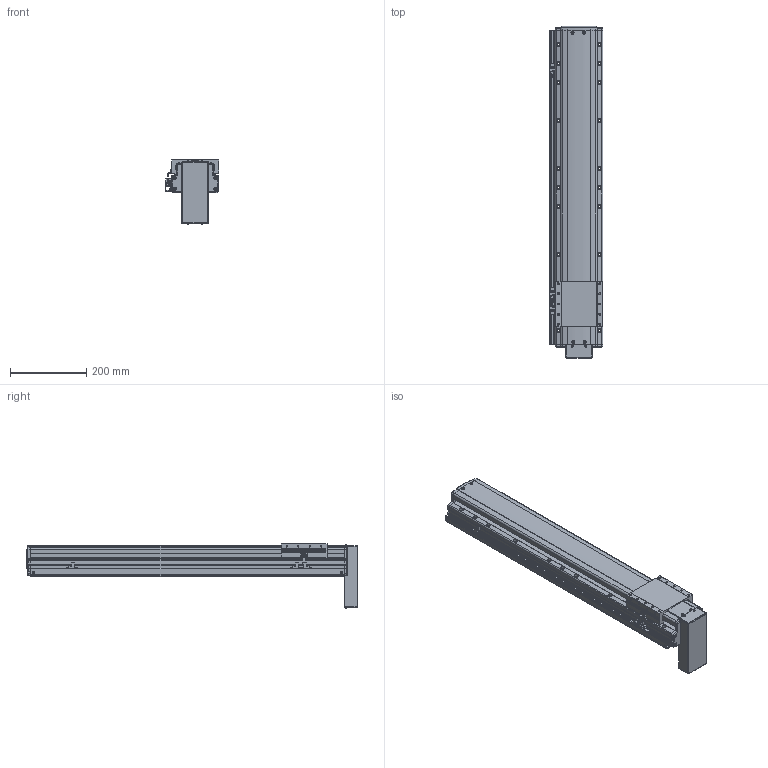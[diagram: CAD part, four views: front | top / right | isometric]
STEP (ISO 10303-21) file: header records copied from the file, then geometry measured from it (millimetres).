
FILE_DESCRIPTION(('STEP AP214'),'1');
FILE_NAME('Z:/Web/3D/PSA125/STP/PSA125-600 (3D)/PSA125ㅁㅁ-600PB+3SL.stp','2014-06-23T04:41:41',(' '),(' '),'Spatial InterOp 3D',' ',' ');
FILE_SCHEMA(('automotive_design'));
Length unit declared in the file: millimetre
Products named in the file (47): 스크루 : Round - M4.0 x 10.0; RRCV-PA120; SLIDE; BASE; FRCV-PA120-1(기준 뿔 제거); RR1500; 스크루 : Round - M4.0 x 6.0; 너트 : Square - M10.0 x 220.7419; 1; 2; 파트105; 스크루 : Round - M3.0 x 6.0; EE-SX674; SBK-SX674-352; M3.0 x 6.0; SRL-16x17-380L; SGD-PA95; 스크루 : Round - M3.0 x 8.0
Bounding box: 141 x 868.6 x 169.06 mm (x, y, z)
Volume: 7509766 mm3; surface area: 726050.7 mm2
Topology: 47 solids, 47 shells, 2631 faces, 6967 edges, 4464 vertices
Faces by surface type: plane 1493, cylinder 728, cone 274, sphere 72, torus 33, bspline 31
Entity records: 104786 total; most frequent: CARTESIAN_POINT 16848, DIRECTION 14040, ORIENTED_EDGE 13658, EDGE_CURVE 6829, AXIS2_PLACEMENT_3D 4744, LINE 4552, VECTOR 4552, VERTEX_POINT 4464
